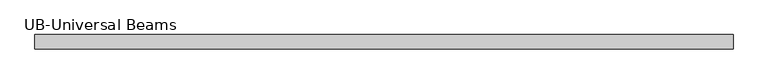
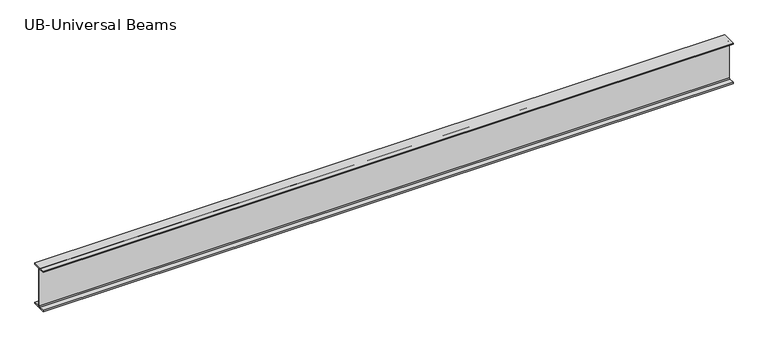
"""IFC4 building model written with IfcOpenShell, lengths in millimetres: beam geometry."""

from ifc_helpers import new_model, si_unit, point, frame, frame_2d, origin, place, context, project, spatial, polyline, circle_curve, trimmed, segment, composite_curve, outline, extrude, source, transform, mapped, element, save


def ub_universal_beams_7b4bcd9a(model_context):
    return source(origin(), model_context, "Body", "SweptSolid", [
        extrude(outline(composite_curve([segment(polyline([(76.9, -214.0), (76.9, -229.0), (-76.9, -229.0), (-76.9, -214.0), (-14.7, -214.0)]), True, "CONTINUOUS"), segment(trimmed(circle_curve(frame_2d((-14.7, -203.8)), 10.2), [point((-14.7, -214.0))], [point((-4.5, -203.8))], True, "CARTESIAN"), True, "CONTINUOUS"), segment(polyline([(-4.5, -203.8), (-4.5, 203.8)]), True, "CONTINUOUS"), segment(trimmed(circle_curve(frame_2d((-14.7, 203.8)), 10.2), [point((-4.5, 203.8))], [point((-14.7, 214.0))], True, "CARTESIAN"), True, "CONTINUOUS"), segment(polyline([(-14.7, 214.0), (-76.9, 214.0), (-76.9, 229.0), (76.9, 229.0), (76.9, 214.0), (14.7, 214.0)]), True, "CONTINUOUS"), segment(trimmed(circle_curve(frame_2d((14.7, 203.8)), 10.2), [point((14.7, 214.0))], [point((4.5, 203.8))], True, "CARTESIAN"), True, "CONTINUOUS"), segment(polyline([(4.5, 203.8), (4.5, -203.8)]), True, "CONTINUOUS"), segment(trimmed(circle_curve(frame_2d((14.7, -203.8)), 10.2), [point((4.5, -203.8))], [point((14.7, -214.0))], True, "CARTESIAN"), True, "CONTINUOUS"), segment(polyline([(14.7, -214.0), (76.9, -214.0)]), True, "CONTINUOUS")], self_intersect=False)), frame((-3737.2, 0.0, 0.0), z_axis=(1.0, 0.0, 0.0), x_axis=(0.0, 1.0, 0.0)), (0.0, 0.0, 1.0), 7366.6),
    ])


if __name__ == "__main__":
    model = new_model("IFC4")
    model_context = context("Model", 3, world=origin())
    ifc_project = project(units=[si_unit("LENGTHUNIT", "METRE", prefix="MILLI")], contexts=[model_context])
    site = spatial("IfcSite", under=ifc_project)
    building = spatial("IfcBuilding", under=site)
    placement = place(None, origin())
    ub_universal_beams_shape = ub_universal_beams_7b4bcd9a(model_context)
    element("IfcBeam", 1, ObjectType="UB-Universal Beams : UB 18\" x 6\" x 2 1/2\"", at=placement, inside=building, context=model_context, shape_type="MappedRepresentation", body=[
        mapped(ub_universal_beams_shape, transform((0.0, 0.0, 0.0), x_axis=(1.0, 0.0, 0.0), y_axis=(0.0, 1.0, 0.0), z_axis=(0.0, 0.0, 1.0))),
    ])
    save(model, "model.ifc")
